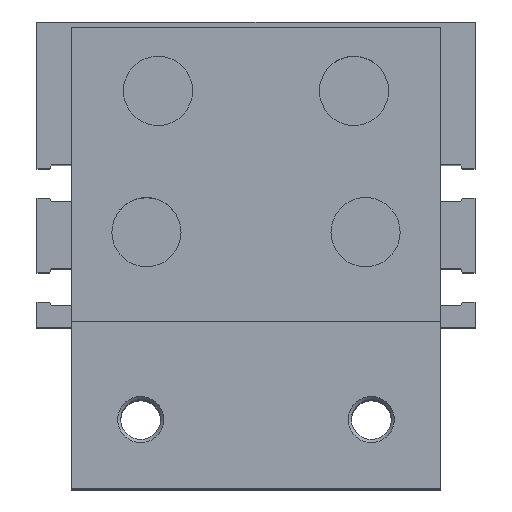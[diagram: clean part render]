
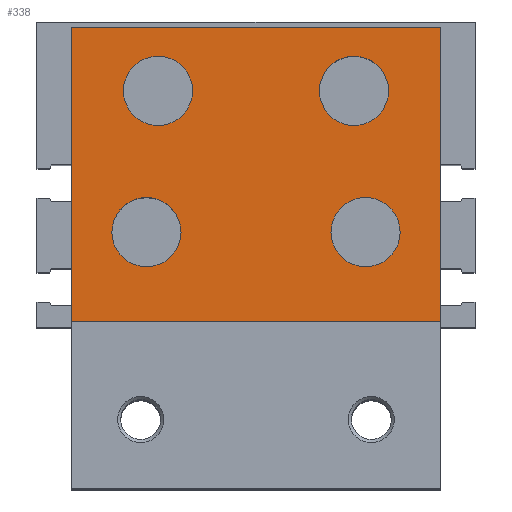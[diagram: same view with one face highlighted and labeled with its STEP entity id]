
A CAD part, top view. The second image highlights one B-rep face of the part: STEP entity #338.
In plain terms, the highlighted planar face has unit normal (0, 0, 1).
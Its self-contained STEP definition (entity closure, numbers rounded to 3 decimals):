
#338 = ADVANCED_FACE( '', ( #717, #718, #719, #720, #721 ), #722, .F. );
#717 = FACE_BOUND( '', #1143, .T. );
#718 = FACE_BOUND( '', #1144, .T. );
#719 = FACE_OUTER_BOUND( '', #1145, .T. );
#720 = FACE_BOUND( '', #1146, .T. );
#721 = FACE_BOUND( '', #1147, .T. );
#722 = PLANE( '', #1148 );
#1143 = EDGE_LOOP( '', ( #1917 ) );
#1144 = EDGE_LOOP( '', ( #1918 ) );
#1145 = EDGE_LOOP( '', ( #1919, #1920, #1921, #1922 ) );
#1146 = EDGE_LOOP( '', ( #1923 ) );
#1147 = EDGE_LOOP( '', ( #1924 ) );
#1148 = AXIS2_PLACEMENT_3D( '', #1925, #1926, #1927 );
#1917 = ORIENTED_EDGE( '', *, *, #2316, .F. );
#1918 = ORIENTED_EDGE( '', *, *, #2483, .F. );
#1919 = ORIENTED_EDGE( '', *, *, #2313, .T. );
#1920 = ORIENTED_EDGE( '', *, *, #2450, .F. );
#1921 = ORIENTED_EDGE( '', *, *, #2426, .F. );
#1922 = ORIENTED_EDGE( '', *, *, #2491, .T. );
#1923 = ORIENTED_EDGE( '', *, *, #2488, .F. );
#1924 = ORIENTED_EDGE( '', *, *, #2492, .F. );
#1925 = CARTESIAN_POINT( '', ( 64., 51., 0. ) );
#1926 = DIRECTION( '', ( 0., 0., -1. ) );
#1927 = DIRECTION( '', ( -1., 0., 0. ) );
#2313 = EDGE_CURVE( '', #2740, #2748, #2750, .T. );
#2316 = EDGE_CURVE( '', #2754, #2754, #2755, .F. );
#2426 = EDGE_CURVE( '', #2915, #2917, #2918, .T. );
#2450 = EDGE_CURVE( '', #2917, #2748, #2945, .T. );
#2483 = EDGE_CURVE( '', #2985, #2985, #2986, .T. );
#2488 = EDGE_CURVE( '', #2992, #2992, #2993, .T. );
#2491 = EDGE_CURVE( '', #2915, #2740, #2997, .T. );
#2492 = EDGE_CURVE( '', #2998, #2998, #2999, .F. );
#2740 = VERTEX_POINT( '', #3322 );
#2748 = VERTEX_POINT( '', #3334 );
#2750 = LINE( '', #3337, #3338 );
#2754 = VERTEX_POINT( '', #3342 );
#2755 = CIRCLE( '', #3343, 6. );
#2915 = VERTEX_POINT( '', #3554 );
#2917 = VERTEX_POINT( '', #3557 );
#2918 = LINE( '', #3558, #3559 );
#2945 = LINE( '', #3597, #3598 );
#2985 = VERTEX_POINT( '', #3643 );
#2986 = CIRCLE( '', #3644, 6. );
#2992 = VERTEX_POINT( '', #3651 );
#2993 = CIRCLE( '', #3652, 6. );
#2997 = LINE( '', #3656, #3657 );
#2998 = VERTEX_POINT( '', #3658 );
#2999 = CIRCLE( '', #3659, 6. );
#3322 = CARTESIAN_POINT( '', ( 0., 51., 0. ) );
#3334 = CARTESIAN_POINT( '', ( 0., 0., 0. ) );
#3337 = CARTESIAN_POINT( '', ( 0., 51., 0. ) );
#3338 = VECTOR( '', #3865, 1000. );
#3342 = CARTESIAN_POINT( '', ( 45., 15.5, 0. ) );
#3343 = AXIS2_PLACEMENT_3D( '', #3869, #3870, #3871 );
#3554 = CARTESIAN_POINT( '', ( 64., 51., 0. ) );
#3557 = CARTESIAN_POINT( '', ( 64., 0., 0. ) );
#3558 = CARTESIAN_POINT( '', ( 64., 51., 0. ) );
#3559 = VECTOR( '', #3999, 1000. );
#3597 = CARTESIAN_POINT( '', ( 64., 0., 0. ) );
#3598 = VECTOR( '', #4020, 1000. );
#3643 = CARTESIAN_POINT( '', ( 19., 15.5, 0. ) );
#3644 = AXIS2_PLACEMENT_3D( '', #4050, #4051, #4052 );
#3651 = CARTESIAN_POINT( '', ( 55., 40., 0. ) );
#3652 = AXIS2_PLACEMENT_3D( '', #4057, #4058, #4059 );
#3656 = CARTESIAN_POINT( '', ( 64., 51., 0. ) );
#3657 = VECTOR( '', #4063, 1000. );
#3658 = CARTESIAN_POINT( '', ( 9., 40., 0. ) );
#3659 = AXIS2_PLACEMENT_3D( '', #4064, #4065, #4066 );
#3865 = DIRECTION( '', ( 0., -1., 0. ) );
#3869 = CARTESIAN_POINT( '', ( 51., 15.5, 0. ) );
#3870 = DIRECTION( '', ( 0., 0., -1. ) );
#3871 = DIRECTION( '', ( -1., 0., 0. ) );
#3999 = DIRECTION( '', ( 0., -1., 0. ) );
#4020 = DIRECTION( '', ( -1., 0., 0. ) );
#4050 = CARTESIAN_POINT( '', ( 13., 15.5, 0. ) );
#4051 = DIRECTION( '', ( 0., 0., 1. ) );
#4052 = DIRECTION( '', ( 1., 0., 0. ) );
#4057 = CARTESIAN_POINT( '', ( 49., 40., 0. ) );
#4058 = DIRECTION( '', ( 0., 0., 1. ) );
#4059 = DIRECTION( '', ( 1., 0., 0. ) );
#4063 = DIRECTION( '', ( -1., 0., 0. ) );
#4064 = CARTESIAN_POINT( '', ( 15., 40., 0. ) );
#4065 = DIRECTION( '', ( 0., 0., -1. ) );
#4066 = DIRECTION( '', ( -1., 0., 0. ) );
